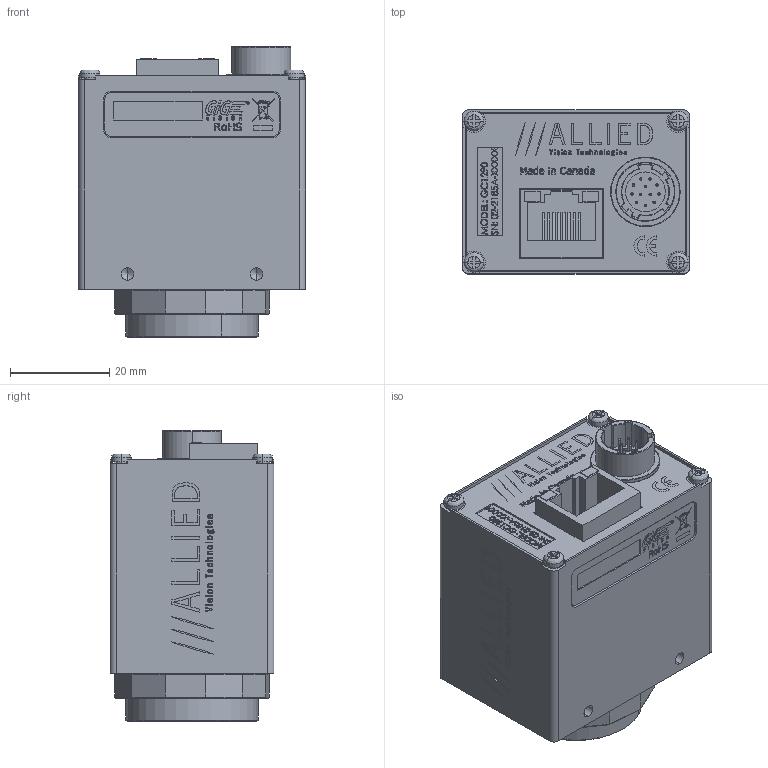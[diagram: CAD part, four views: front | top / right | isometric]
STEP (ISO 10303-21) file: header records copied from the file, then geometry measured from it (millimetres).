
FILE_DESCRIPTION (( 'STEP AP214' ), '1' );
FILE_NAME ('GC1290.STEP', '2013-07-31T18:39:20', ( '' ), ( '' ), 'SwSTEP 2.0', 'SolidWorks 2013', '' );
FILE_SCHEMA (( 'AUTOMOTIVE_DESIGN' ));
Length unit declared in the file: millimetre
Products named in the file (20): 110043A GC BACK PLATE - WO HW; 110003AC-CV CMOUNT RING; 200047A-A GC INTERFACE PCB ASSY; 260033-AMPHENOL RJHS-3381; 740032B-GC MAIN LABEL; 140023-SCREW SKT CAP M2x10 SS; 110042C GC-CCD FRONT_Finished with logo; 140013-washer spring lock M2; 740123A-GC MAC LABEL; 140017-SCREW PAN M2x4 SS; GC1290; 220121-SONY ICX445ALA; SONY ICX445 BODY; SONY ICX445 WINDOW; 200073A-PCB ASSY GC1290  SENSOR MONO; 110031A-B EC-CCD LOCKING RING; 110045A-EC-CCD DUST SHIELD GASKET; 260034-HIROSE HR10A-10R-12PB; 740078A-GC1290 LABEL PRINT; 110043A GC BACK PLATE
Assembly tree (24 placements, depth 4):
  GC1290
    140017-SCREW PAN M2x4 SS  x4
    740123A-GC MAC LABEL
    140013-washer spring lock M2  x2
    110042C GC-CCD FRONT_Finished with logo
    140023-SCREW SKT CAP M2x10 SS  x2
    740032B-GC MAIN LABEL
    200047A-A GC INTERFACE PCB ASSY
      260033-AMPHENOL RJHS-3381
    110003AC-CV CMOUNT RING
    110043A GC BACK PLATE
      110043A GC BACK PLATE - WO HW
    740078A-GC1290 LABEL PRINT
    260034-HIROSE HR10A-10R-12PB
    110045A-EC-CCD DUST SHIELD GASKET
    110031A-B EC-CCD LOCKING RING
    200073A-PCB ASSY GC1290  SENSOR MONO
      220121-SONY ICX445ALA
        SONY ICX445 WINDOW
        SONY ICX445 BODY
Bounding box: 45.72 x 33.02 x 58.54 mm (x, y, z)
Volume: 23345.1 mm3; surface area: 32057.7 mm2
Topology: 20 solids, 20 shells, 3306 faces, 8669 edges, 5608 vertices
Faces by surface type: plane 1911, bspline 920, cylinder 283, cone 192
Entity records: 166890 total; most frequent: CARTESIAN_POINT 58115, ORIENTED_EDGE 16650, DIRECTION 11881, EDGE_CURVE 8325, VECTOR 5791, LINE 5791, VERTEX_POINT 5438, EDGE_LOOP 3529
